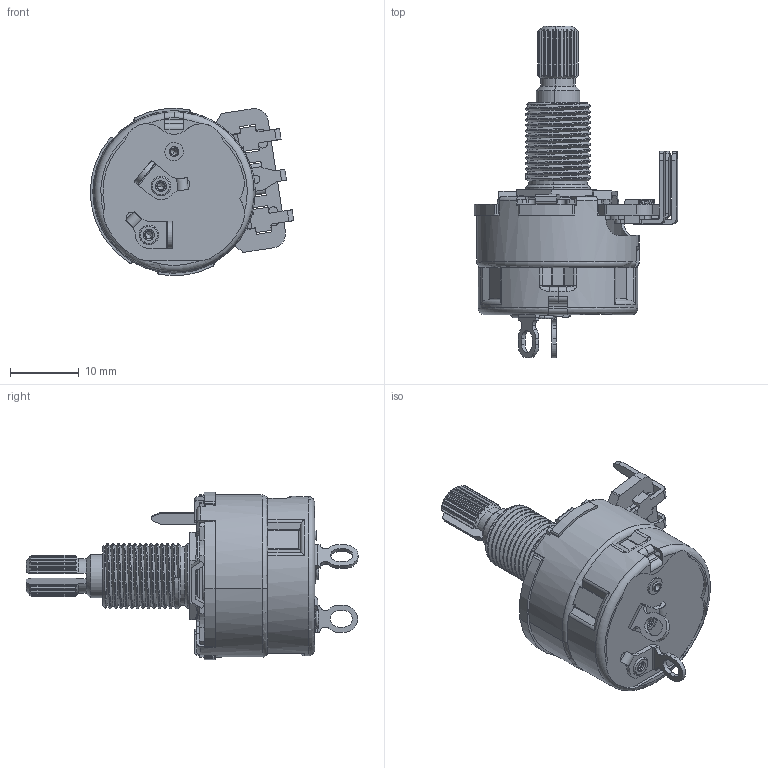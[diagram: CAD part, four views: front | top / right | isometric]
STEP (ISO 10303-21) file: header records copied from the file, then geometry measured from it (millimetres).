
FILE_DESCRIPTION (( 'STEP AP214' ), '1' );
FILE_NAME ('450U430K254B1J5.STEP', '2019-05-27T01:21:37', ( '' ), ( '' ), 'SwSTEP 2.0', 'SolidWorks 2019', '' );
FILE_SCHEMA (( 'AUTOMOTIVE_DESIGN' ));
Length unit declared in the file: millimetre
Products named in the file (18): U450AEDF(use 450-01-T08-30-01G); 450U430K254B1J5; 450D-5 for U450DAEDF and T08 base_Bending Forward_DPDT Switch Fit Actual Forming Die; shaft for 450U30K254B1J5; 450-01-T08-30-01G; 450 element; Switch BaseG_A_19; 2-450B-48; Pivot_G_B_5C_RollOver Operation; 45C-2T-no lug; Simple TGC-39; G-D-1_G_E_1; 450-40-019-02-53_2-45Q-T; 450F-9 for U450AEDF; Counter RivotGC_C_1G_RollOver Operation; SwitchBaseAssembling_Dummy GC-42T; G-D-1_G_D_1; Cover_GK_4_Embossed Operatopm
Assembly tree (19 placements, depth 4):
  450U430K254B1J5
    Simple TGC-39
      Cover_GK_4_Embossed Operatopm
      SwitchBaseAssembling_Dummy GC-42T
        Switch BaseG_A_19
        G-D-1_G_D_1
        G-D-1_G_E_1
        Counter RivotGC_C_1G_RollOver Operation  x2
        Pivot_G_B_5C_RollOver Operation
    450-40-019-02-53_2-45Q-T
    shaft for 450U30K254B1J5
    2-450B-48
    45C-2T-no lug
    U450AEDF(use 450-01-T08-30-01G)
      450-01-T08-30-01G
      450 element
      450D-5 for U450DAEDF and T08 base_Bending Forward_DPDT Switch Fit Actual Forming Die
      450F-9 for U450AEDF  x2
Bounding box: 29.54 x 48.22 x 24.33 mm (x, y, z)
Volume: 3646 mm3; surface area: 9367.5 mm2
Topology: 16 solids, 16 shells, 1210 faces, 3272 edges, 2081 vertices
Faces by surface type: plane 616, cylinder 434, torus 80, cone 50, bspline 20, sphere 10
Entity records: 38912 total; most frequent: CARTESIAN_POINT 9680, ORIENTED_EDGE 6112, DIRECTION 5944, EDGE_CURVE 3056, AXIS2_PLACEMENT_3D 2144, VERTEX_POINT 1957, LINE 1656, VECTOR 1656
